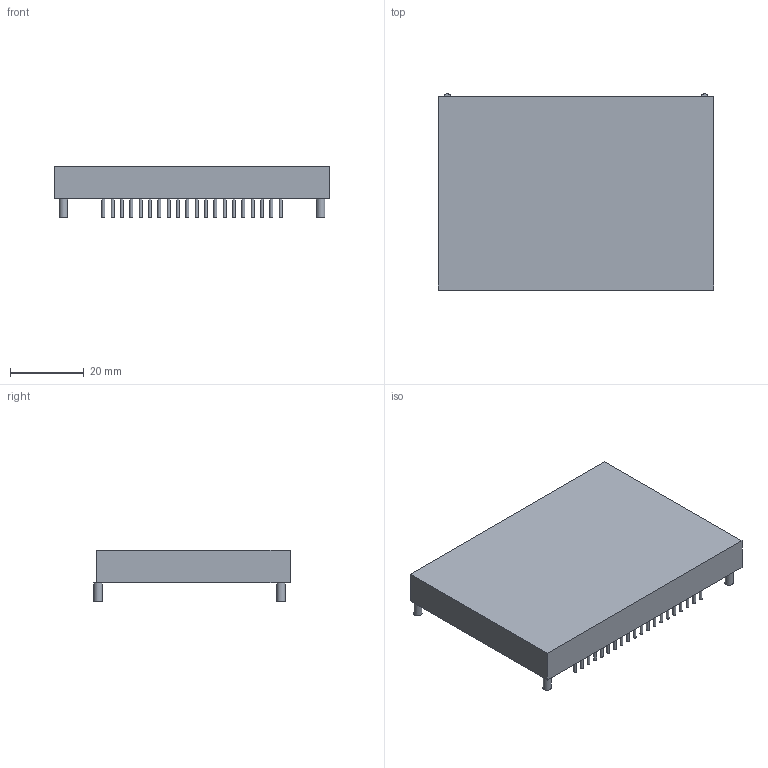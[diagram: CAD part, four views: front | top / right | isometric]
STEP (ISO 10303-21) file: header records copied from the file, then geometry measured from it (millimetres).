
FILE_DESCRIPTION(('FreeCAD Model'),'2;1');
FILE_NAME('/var/www/3D/0T/247568.1.3.stp','2022-03-31T10:22:02',( 'Author'),(''),'Open CASCADE STEP processor 6.9','FreeCAD','Unknown' );
FILE_SCHEMA(('AUTOMOTIVE_DESIGN { 1 0 10303 214 1 1 1 1 }'));
Length unit declared in the file: millimetre
Products named in the file (3): ASSEMBLY; Body; Leads
Assembly tree (2 placements, depth 2):
  ASSEMBLY
    Body
    Leads
Bounding box: 75 x 53.35 x 14 mm (x, y, z)
Volume: 35313.3 mm3; surface area: 10635.2 mm2
Topology: 25 solids, 25 shells, 78 faces, 84 edges, 56 vertices
Faces by surface type: plane 54, cylinder 24
Full cylindrical faces by diameter (mm): 0.8 x20, 2.3 x4
Entity records: 2795 total; most frequent: DIRECTION 462, CARTESIAN_POINT 389, ORIENTED_EDGE 168, PCURVE 168, DEFINITIONAL_REPRESENTATION 168, LINE 156, VECTOR 156, AXIS2_PLACEMENT_3D 129
